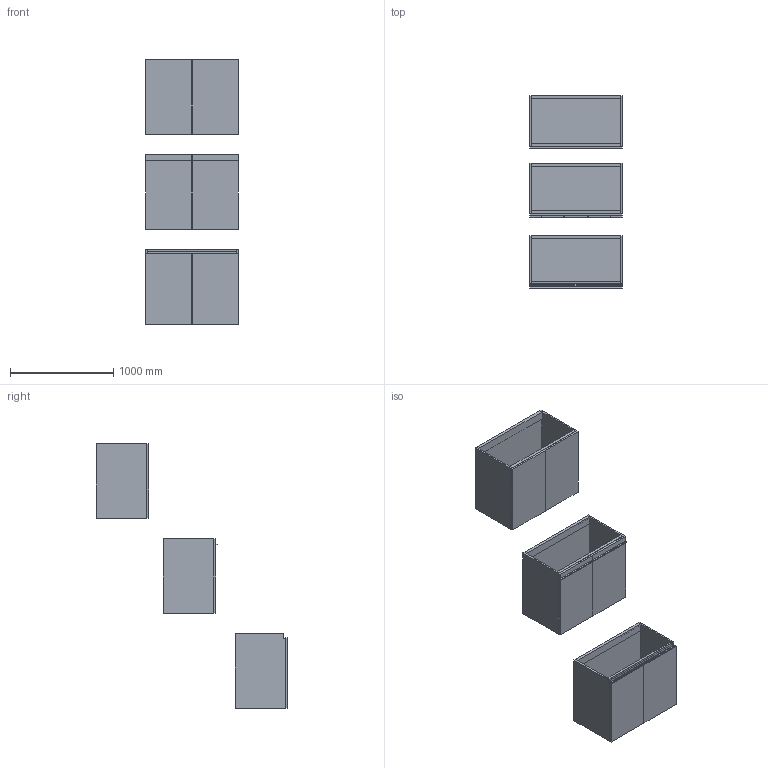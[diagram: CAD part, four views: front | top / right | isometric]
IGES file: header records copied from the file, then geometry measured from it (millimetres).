
Start section: Data from Parasolid IGES Translator 19.0.9, Copyright(c) 2006 Siemens PL M Software. All Rights Reserved.
Global section: file name: noorth-SI-H 72 D 51 W 90_8627.igs; native system: By Siemens PLM Incorporated; preprocessor: XPlus GENERIC/IGES 19.0.9; author: Noname; organization: Noname; date: 20200601.121837; units: metre
Bounding box: 900 x 1857.1 x 2560.01 mm (x, y, z)
Volume: 102936047.7 mm3; surface area: 15750043 mm2
Topology: 27 solids, 27 shells, 264 faces, 566 edges, 336 vertices
Faces by surface type: plane 180, extrusion 32, bspline 32, cylinder 20
